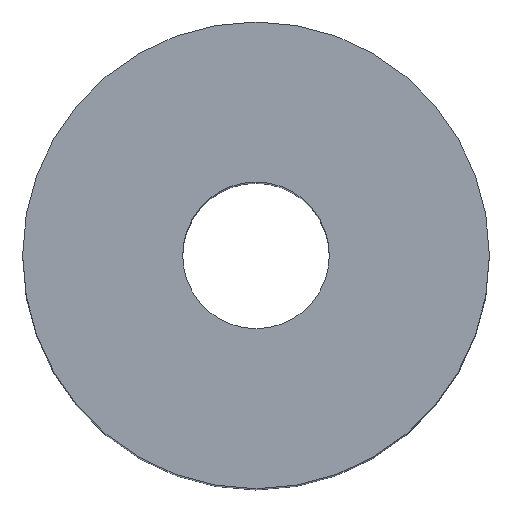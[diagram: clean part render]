
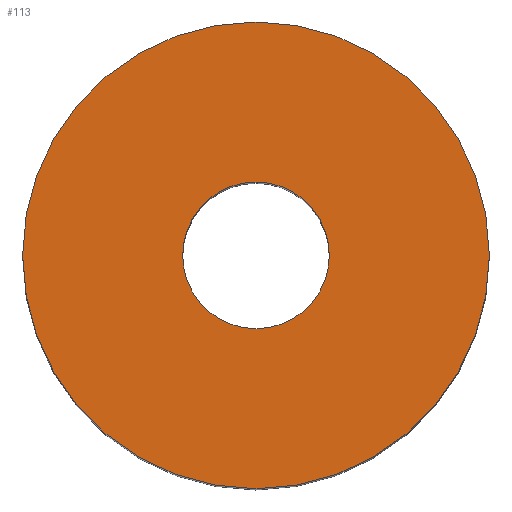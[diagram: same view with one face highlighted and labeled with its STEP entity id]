
A CAD part, top view. The second image highlights one B-rep face of the part: STEP entity #113.
In plain terms, the highlighted planar face has unit normal (0, 0, 1).
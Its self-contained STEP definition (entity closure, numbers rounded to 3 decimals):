
#113=ADVANCED_FACE('',(#121,#122),#119,.T.);
#119=PLANE('',#190);
#121=FACE_BOUND('',#125,.T.);
#122=FACE_BOUND('',#126,.T.);
#125=EDGE_LOOP('',(#133,#134));
#126=EDGE_LOOP('',(#135,#136));
#133=ORIENTED_EDGE('',*,*,#165,.T.);
#134=ORIENTED_EDGE('',*,*,#166,.T.);
#135=ORIENTED_EDGE('',*,*,#167,.F.);
#136=ORIENTED_EDGE('',*,*,#168,.F.);
#157=VERTEX_POINT('',#236);
#158=VERTEX_POINT('',#237);
#159=VERTEX_POINT('',#240);
#160=VERTEX_POINT('',#241);
#165=EDGE_CURVE('',#157,#158,#177,.T.);
#166=EDGE_CURVE('',#158,#157,#178,.T.);
#167=EDGE_CURVE('',#159,#160,#179,.T.);
#168=EDGE_CURVE('',#160,#159,#180,.T.);
#177=CIRCLE('',#186,35.);
#178=CIRCLE('',#187,35.);
#179=CIRCLE('',#188,11.);
#180=CIRCLE('',#189,11.);
#186=AXIS2_PLACEMENT_3D('',#235,#202,#203);
#187=AXIS2_PLACEMENT_3D('',#238,#204,#205);
#188=AXIS2_PLACEMENT_3D('',#239,#206,#207);
#189=AXIS2_PLACEMENT_3D('',#242,#208,#209);
#190=AXIS2_PLACEMENT_3D('',#243,#210,#211);
#202=DIRECTION('',(0.,0.,1.));
#203=DIRECTION('',(0.,1.,0.));
#204=DIRECTION('',(0.,0.,1.));
#205=DIRECTION('',(0.,-1.,0.));
#206=DIRECTION('',(0.,0.,1.));
#207=DIRECTION('',(0.,-1.,0.));
#208=DIRECTION('',(0.,0.,1.));
#209=DIRECTION('',(0.,1.,0.));
#210=DIRECTION('',(0.,0.,1.));
#211=DIRECTION('',(0.,1.,0.));
#235=CARTESIAN_POINT('',(0.,0.,110.));
#236=CARTESIAN_POINT('',(-35.,0.,110.));
#237=CARTESIAN_POINT('',(35.,0.,110.));
#238=CARTESIAN_POINT('',(0.,0.,110.));
#239=CARTESIAN_POINT('',(0.,0.,110.));
#240=CARTESIAN_POINT('',(11.,0.,110.));
#241=CARTESIAN_POINT('',(-11.,0.,110.));
#242=CARTESIAN_POINT('',(0.,0.,110.));
#243=CARTESIAN_POINT('',(0.,0.,110.));
